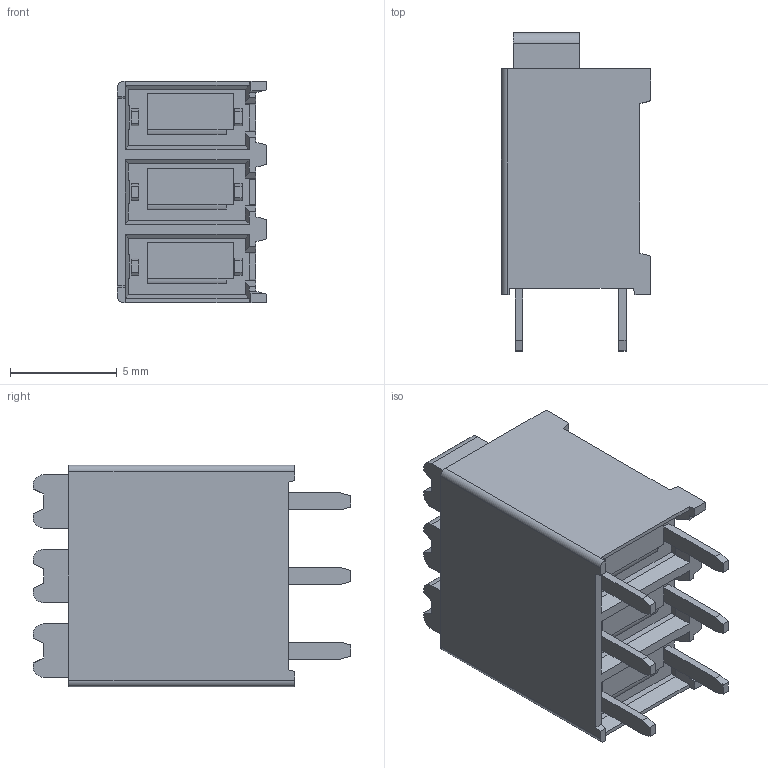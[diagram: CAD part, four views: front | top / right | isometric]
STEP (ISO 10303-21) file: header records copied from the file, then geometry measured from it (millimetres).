
FILE_DESCRIPTION (( 'STEP AP203' ), '1' );
FILE_NAME ('830-A-121-THR-03.STEP', '2017-02-16T20:57:37', ( '' ), ( '' ), 'SwSTEP 2.0', 'SolidWorks 2016', '' );
FILE_SCHEMA (( 'CONFIG_CONTROL_DESIGN' ));
Length unit declared in the file: millimetre
Products named in the file (1): 830-A-121-THR-03
Bounding box: 7 x 14.93 x 10.4 mm (x, y, z)
Volume: 623.9 mm3; surface area: 882.1 mm2
Topology: 1 solids, 1 shells, 327 faces, 871 edges, 561 vertices
Faces by surface type: plane 274, cylinder 32, cone 12, bspline 9
Entity records: 10187 total; most frequent: CARTESIAN_POINT 2000, ORIENTED_EDGE 1742, DIRECTION 1587, EDGE_CURVE 871, VECTOR 739, LINE 739, VERTEX_POINT 561, AXIS2_PLACEMENT_3D 424
